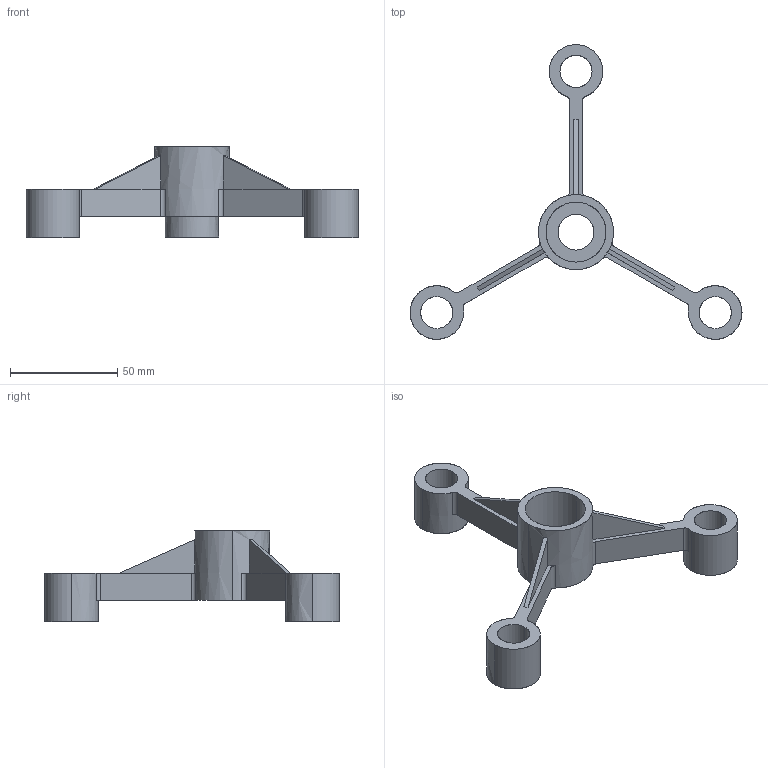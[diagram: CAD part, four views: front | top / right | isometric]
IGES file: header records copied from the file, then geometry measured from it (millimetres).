
Start section: SolidWorks IGES file using analytic representation for surfaces
Global section: file name: C:\Documents and Settings\Pc\Escritorio\Modelos 3D\Capítulo 5 (Estudio diseño)\PRACTICAS PROPUESTAS\P-7\ejercicio simple simulation.IGS; native system: SolidWorks 2010; preprocessor: SolidWorks 2010; author: Pc; date: 100623.114324; units: millimetre
Bounding box: 154.9 x 137.5 x 42.7 mm (x, y, z)
Surface area: 24108.1 mm2 (no closed solid volume)
Topology: 0 solids, 0 shells, 56 faces, 1081 edges, 1081 vertices
Faces by surface type: revolution 32, bspline 24
